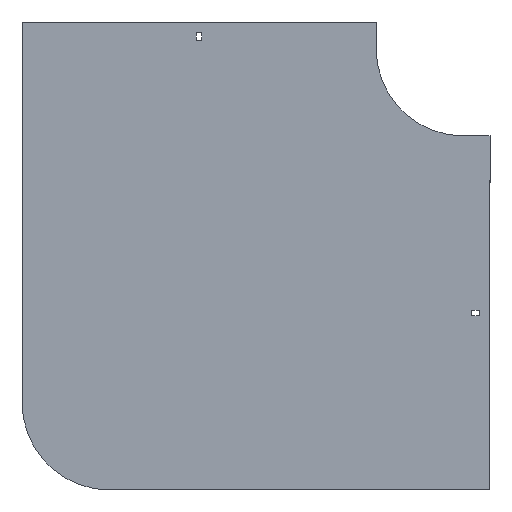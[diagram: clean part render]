
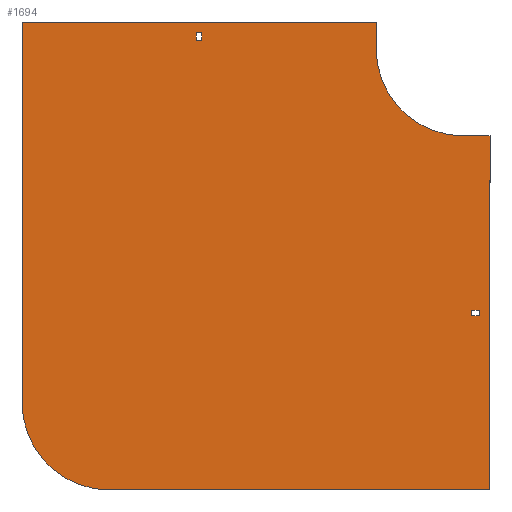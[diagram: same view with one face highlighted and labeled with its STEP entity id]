
A CAD part, front view. The second image highlights one B-rep face of the part: STEP entity #1694.
In plain terms, the highlighted planar face has unit normal (0, -1, 0).
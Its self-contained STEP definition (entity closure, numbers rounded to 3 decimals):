
#4 = ORIENTED_EDGE ( 'NONE', *, *, #1853, .F. ) ;
#10 = CARTESIAN_POINT ( 'NONE',  ( 18., 0., -305.25 ) ) ;
#42 = ORIENTED_EDGE ( 'NONE', *, *, #56, .F. ) ;
#56 = EDGE_CURVE ( 'NONE', #690, #817, #667, .T. ) ;
#57 = VERTEX_POINT ( 'NONE', #1433 ) ;
#73 = DIRECTION ( 'NONE',  ( 0., 0., -1. ) ) ;
#80 = CARTESIAN_POINT ( 'NONE',  ( -100., 0., 0. ) ) ;
#98 = CARTESIAN_POINT ( 'NONE',  ( -404., 0., -504. ) ) ;
#102 = LINE ( 'NONE', #704, #1857 ) ;
#131 = EDGE_CURVE ( 'NONE', #1754, #405, #1048, .T. ) ;
#157 = VERTEX_POINT ( 'NONE', #1630 ) ;
#175 = CARTESIAN_POINT ( 'NONE',  ( -305.25, 0., 18. ) ) ;
#177 = VECTOR ( 'NONE', #359, 1000. ) ;
#185 = VERTEX_POINT ( 'NONE', #1336 ) ;
#187 = CARTESIAN_POINT ( 'NONE',  ( -298.75, 0., 18. ) ) ;
#198 = CIRCLE ( 'NONE', #788, 100. ) ;
#208 = CARTESIAN_POINT ( 'NONE',  ( 0., 0., -100. ) ) ;
#240 = CARTESIAN_POINT ( 'NONE',  ( 30., 0., -504. ) ) ;
#243 = EDGE_CURVE ( 'NONE', #817, #469, #568, .T. ) ;
#250 = LINE ( 'NONE', #501, #177 ) ;
#255 = ORIENTED_EDGE ( 'NONE', *, *, #434, .T. ) ;
#286 = EDGE_CURVE ( 'NONE', #157, #380, #1544, .T. ) ;
#289 = CARTESIAN_POINT ( 'NONE',  ( 9., 0., -305.25 ) ) ;
#329 = VERTEX_POINT ( 'NONE', #187 ) ;
#359 = DIRECTION ( 'NONE',  ( 0., 0., 1. ) ) ;
#360 = DIRECTION ( 'NONE',  ( 0., 0., -1. ) ) ;
#380 = VERTEX_POINT ( 'NONE', #80 ) ;
#405 = VERTEX_POINT ( 'NONE', #1292 ) ;
#434 = EDGE_CURVE ( 'NONE', #329, #1818, #102, .T. ) ;
#443 = CARTESIAN_POINT ( 'NONE',  ( -504., 0., 30. ) ) ;
#444 = ORIENTED_EDGE ( 'NONE', *, *, #1180, .T. ) ;
#451 = CARTESIAN_POINT ( 'NONE',  ( -305.25, 0., 9. ) ) ;
#456 = DIRECTION ( 'NONE',  ( 1., 0., 0. ) ) ;
#459 = EDGE_CURVE ( 'NONE', #469, #808, #1163, .T. ) ;
#466 = VECTOR ( 'NONE', #456, 1000. ) ;
#469 = VERTEX_POINT ( 'NONE', #240 ) ;
#497 = DIRECTION ( 'NONE',  ( 1., 0., 0. ) ) ;
#501 = CARTESIAN_POINT ( 'NONE',  ( -504., 0., -404. ) ) ;
#521 = LINE ( 'NONE', #832, #1136 ) ;
#538 = VERTEX_POINT ( 'NONE', #10 ) ;
#548 = CARTESIAN_POINT ( 'NONE',  ( 0., 0., -100. ) ) ;
#568 = LINE ( 'NONE', #724, #981 ) ;
#579 = DIRECTION ( 'NONE',  ( 0., 0., -1. ) ) ;
#584 = ORIENTED_EDGE ( 'NONE', *, *, #131, .T. ) ;
#638 = VECTOR ( 'NONE', #497, 1000. ) ;
#642 = CARTESIAN_POINT ( 'NONE',  ( 9., 0., -298.75 ) ) ;
#652 = AXIS2_PLACEMENT_3D ( 'NONE', #835, #1706, #360 ) ;
#667 = LINE ( 'NONE', #548, #734 ) ;
#675 = EDGE_CURVE ( 'NONE', #808, #185, #198, .T. ) ;
#690 = VERTEX_POINT ( 'NONE', #208 ) ;
#704 = CARTESIAN_POINT ( 'NONE',  ( -298.75, 0., 9. ) ) ;
#724 = CARTESIAN_POINT ( 'NONE',  ( 30., 0., -100. ) ) ;
#734 = VECTOR ( 'NONE', #1560, 1000. ) ;
#748 = EDGE_CURVE ( 'NONE', #1818, #1754, #1712, .T. ) ;
#763 = VECTOR ( 'NONE', #1924, 1000. ) ;
#785 = CARTESIAN_POINT ( 'NONE',  ( -298.75, 0., 9. ) ) ;
#788 = AXIS2_PLACEMENT_3D ( 'NONE', #1850, #1535, #923 ) ;
#792 = EDGE_CURVE ( 'NONE', #538, #57, #521, .T. ) ;
#807 = PLANE ( 'NONE',  #652 ) ;
#808 = VERTEX_POINT ( 'NONE', #98 ) ;
#816 = FACE_BOUND ( 'NONE', #1346, .T. ) ;
#817 = VERTEX_POINT ( 'NONE', #1722 ) ;
#823 = AXIS2_PLACEMENT_3D ( 'NONE', #1945, #1028, #1641 ) ;
#832 = CARTESIAN_POINT ( 'NONE',  ( 18., 0., -305.25 ) ) ;
#835 = CARTESIAN_POINT ( 'NONE',  ( 0., 0., 0. ) ) ;
#892 = VERTEX_POINT ( 'NONE', #1743 ) ;
#923 = DIRECTION ( 'NONE',  ( 0., 0., 1. ) ) ;
#925 = ORIENTED_EDGE ( 'NONE', *, *, #286, .F. ) ;
#947 = VECTOR ( 'NONE', #1397, 1000. ) ;
#955 = CARTESIAN_POINT ( 'NONE',  ( 9., 0., -305.25 ) ) ;
#969 = DIRECTION ( 'NONE',  ( 0., 0., 1. ) ) ;
#981 = VECTOR ( 'NONE', #579, 1000. ) ;
#985 = CARTESIAN_POINT ( 'NONE',  ( 30., 0., -504. ) ) ;
#1021 = LINE ( 'NONE', #1802, #466 ) ;
#1026 = VECTOR ( 'NONE', #1312, 1000. ) ;
#1028 = DIRECTION ( 'NONE',  ( 0., -1., 0. ) ) ;
#1039 = LINE ( 'NONE', #289, #763 ) ;
#1048 = LINE ( 'NONE', #451, #1737 ) ;
#1071 = ORIENTED_EDGE ( 'NONE', *, *, #243, .F. ) ;
#1076 = ORIENTED_EDGE ( 'NONE', *, *, #1903, .F. ) ;
#1103 = FACE_BOUND ( 'NONE', #1931, .T. ) ;
#1132 = LINE ( 'NONE', #955, #1687 ) ;
#1136 = VECTOR ( 'NONE', #969, 1000. ) ;
#1145 = ORIENTED_EDGE ( 'NONE', *, *, #675, .F. ) ;
#1163 = LINE ( 'NONE', #985, #1572 ) ;
#1165 = VECTOR ( 'NONE', #1851, 1000. ) ;
#1174 = CIRCLE ( 'NONE', #823, 100. ) ;
#1180 = EDGE_CURVE ( 'NONE', #405, #329, #1848, .T. ) ;
#1184 = ORIENTED_EDGE ( 'NONE', *, *, #748, .T. ) ;
#1241 = ORIENTED_EDGE ( 'NONE', *, *, #1624, .F. ) ;
#1292 = CARTESIAN_POINT ( 'NONE',  ( -305.25, 0., 18. ) ) ;
#1305 = DIRECTION ( 'NONE',  ( 0., 0., -1. ) ) ;
#1312 = DIRECTION ( 'NONE',  ( -1., 0., 0. ) ) ;
#1320 = ORIENTED_EDGE ( 'NONE', *, *, #459, .F. ) ;
#1336 = CARTESIAN_POINT ( 'NONE',  ( -504., 0., -404. ) ) ;
#1346 = EDGE_LOOP ( 'NONE', ( #584, #444, #255, #1184 ) ) ;
#1372 = CARTESIAN_POINT ( 'NONE',  ( 9., 0., -298.75 ) ) ;
#1397 = DIRECTION ( 'NONE',  ( -1., 0., 0. ) ) ;
#1404 = EDGE_LOOP ( 'NONE', ( #1076, #4, #1145, #1320, #1071, #42, #1908, #925 ) ) ;
#1407 = EDGE_CURVE ( 'NONE', #892, #538, #1039, .T. ) ;
#1419 = EDGE_CURVE ( 'NONE', #380, #690, #1174, .T. ) ;
#1433 = CARTESIAN_POINT ( 'NONE',  ( 18., 0., -298.75 ) ) ;
#1438 = DIRECTION ( 'NONE',  ( -1., 0., 0. ) ) ;
#1470 = VERTEX_POINT ( 'NONE', #443 ) ;
#1477 = ORIENTED_EDGE ( 'NONE', *, *, #1823, .F. ) ;
#1479 = ORIENTED_EDGE ( 'NONE', *, *, #1407, .F. ) ;
#1535 = DIRECTION ( 'NONE',  ( 0., 1., 0. ) ) ;
#1543 = CARTESIAN_POINT ( 'NONE',  ( -305.25, 0., 9. ) ) ;
#1544 = LINE ( 'NONE', #1807, #1165 ) ;
#1560 = DIRECTION ( 'NONE',  ( 1., 0., 0. ) ) ;
#1566 = FACE_OUTER_BOUND ( 'NONE', #1404, .T. ) ;
#1567 = VERTEX_POINT ( 'NONE', #1372 ) ;
#1572 = VECTOR ( 'NONE', #1438, 1000. ) ;
#1610 = CARTESIAN_POINT ( 'NONE',  ( -305.25, 0., 9. ) ) ;
#1624 = EDGE_CURVE ( 'NONE', #1567, #892, #1132, .T. ) ;
#1630 = CARTESIAN_POINT ( 'NONE',  ( -100., 0., 30. ) ) ;
#1641 = DIRECTION ( 'NONE',  ( 0., 0., -1. ) ) ;
#1651 = DIRECTION ( 'NONE',  ( 0., 0., 1. ) ) ;
#1687 = VECTOR ( 'NONE', #73, 1000. ) ;
#1694 = ADVANCED_FACE ( 'NONE', ( #816, #1566, #1103 ), #807, .T. ) ;
#1706 = DIRECTION ( 'NONE',  ( 0., -1., 0. ) ) ;
#1712 = LINE ( 'NONE', #1543, #947 ) ;
#1722 = CARTESIAN_POINT ( 'NONE',  ( 30., 0., -100. ) ) ;
#1737 = VECTOR ( 'NONE', #1651, 1000. ) ;
#1743 = CARTESIAN_POINT ( 'NONE',  ( 9., 0., -305.25 ) ) ;
#1754 = VERTEX_POINT ( 'NONE', #1610 ) ;
#1802 = CARTESIAN_POINT ( 'NONE',  ( -504., 0., 30. ) ) ;
#1807 = CARTESIAN_POINT ( 'NONE',  ( -100., 0., 30. ) ) ;
#1818 = VERTEX_POINT ( 'NONE', #785 ) ;
#1823 = EDGE_CURVE ( 'NONE', #57, #1567, #1843, .T. ) ;
#1843 = LINE ( 'NONE', #642, #1026 ) ;
#1848 = LINE ( 'NONE', #175, #638 ) ;
#1850 = CARTESIAN_POINT ( 'NONE',  ( -404., 0., -404. ) ) ;
#1851 = DIRECTION ( 'NONE',  ( 0., 0., -1. ) ) ;
#1853 = EDGE_CURVE ( 'NONE', #185, #1470, #250, .T. ) ;
#1857 = VECTOR ( 'NONE', #1305, 1000. ) ;
#1871 = ORIENTED_EDGE ( 'NONE', *, *, #792, .F. ) ;
#1903 = EDGE_CURVE ( 'NONE', #1470, #157, #1021, .T. ) ;
#1908 = ORIENTED_EDGE ( 'NONE', *, *, #1419, .F. ) ;
#1924 = DIRECTION ( 'NONE',  ( 1., 0., 0. ) ) ;
#1931 = EDGE_LOOP ( 'NONE', ( #1871, #1479, #1241, #1477 ) ) ;
#1945 = CARTESIAN_POINT ( 'NONE',  ( 0., 0., 0. ) ) ;
